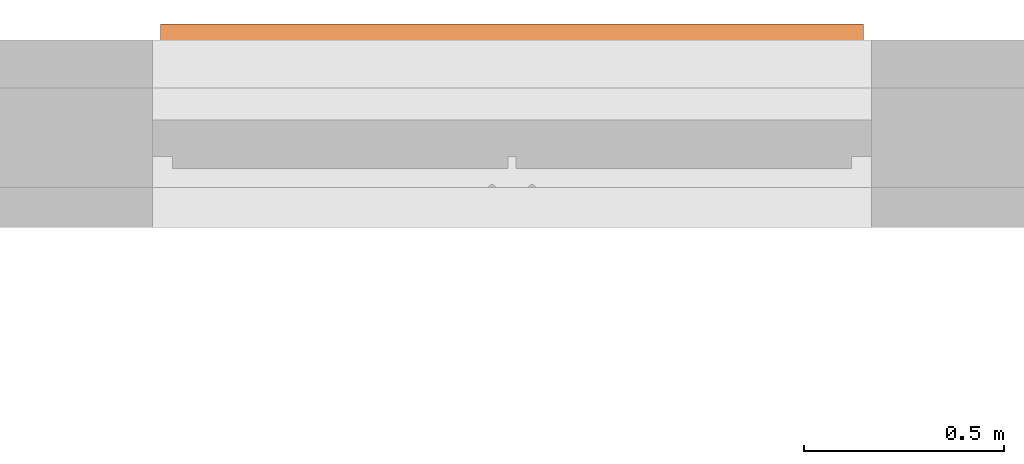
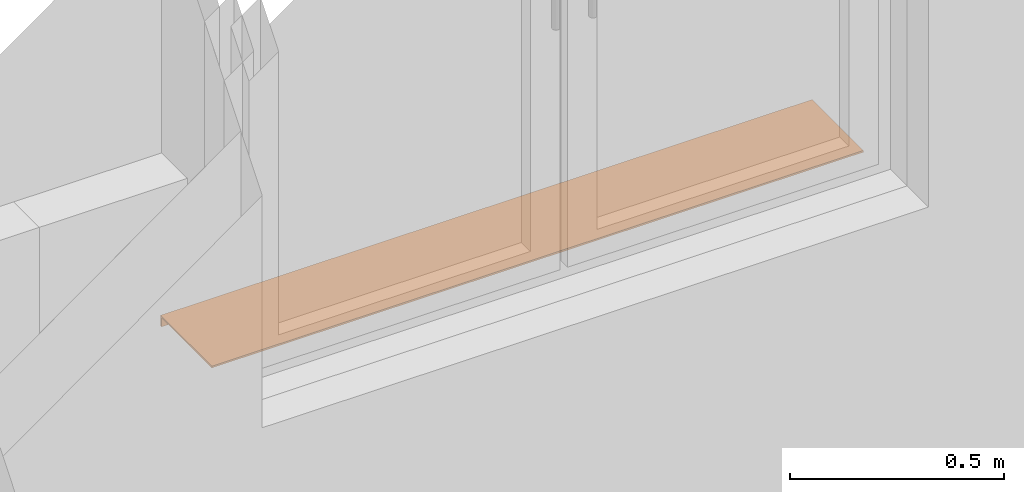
# One storey, part 7 of 7: 1 proxy.
"""IFC4 building model written with IfcOpenShell, lengths in metres."""

from ifc_helpers import new_model, entity, si_unit, converted_unit, derived_unit, frame, origin, origin_with_axes, place, context, subcontext, project, spatial, faceted_brep, source, transform, mapped, material, element, save


model = new_model("IFC4")

# Units and contexts
model_context = context("Model", 3, precision=1e-05, world=origin())
body_context = subcontext(model_context, "Body", "Model", "MODEL_VIEW")
ifc_project = project(units=[si_unit("LENGTHUNIT", "METRE"), si_unit("AREAUNIT", "SQUARE_METRE"), si_unit("VOLUMEUNIT", "CUBIC_METRE"), si_unit("MASSUNIT", "GRAM", prefix="KILO"), converted_unit("PLANEANGLEUNIT", "DEGREE", entity("IfcPlaneAngleMeasure", 0.0174532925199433), si_unit("PLANEANGLEUNIT", "RADIAN"), dimensions=[0, 0, 0, 0, 0, 0, 0]), derived_unit("THERMALTRANSMITTANCEUNIT", [(si_unit("POWERUNIT", "WATT"), 1), (si_unit("THERMODYNAMICTEMPERATUREUNIT", "KELVIN"), -1), (si_unit("LENGTHUNIT", "METRE"), -2)]), derived_unit("VOLUMETRICFLOWRATEUNIT", [(si_unit("LENGTHUNIT", "METRE"), 3), (converted_unit("TIMEUNIT", "hour", entity("IfcTimeMeasure", 3600.0), si_unit("TIMEUNIT", "SECOND"), dimensions=[0, 0, 1, 0, 0, 0, 0]), -1), (si_unit("LENGTHUNIT", "METRE"), -1)])], contexts=[model_context])

# Site, building, storey
site_placement = place(None, origin())
site = spatial("IfcSite", under=ifc_project, at=site_placement, Name="3. ASŘ", CompositionType="ELEMENT")
building_placement = place(site_placement, origin())
building = spatial("IfcBuilding", under=site, at=building_placement, Name="Pavilon B", CompositionType="ELEMENT")
storey_placement = place(building_placement, frame((0.0, 0.0, 3.6)))
storey = spatial("IfcBuildingStorey", under=building, at=storey_placement, Name="Půdorys 2.NP", CompositionType="ELEMENT", Elevation=3.6)

# Proxy
ifc_material = material(Name="HLINÍKOVÝ PLECH ELOXOVANÝ")
shared_shape = source(origin_with_axes(), body_context, "Body", "Brep", [
    faceted_brep([(0.02, 0.04, 0.025), (0.02, 0.24, 0.025), (0.02, 0.24, 0.03), (0.02, 0.04, 0.03), (1.74, 0.04, 0.025), (1.74, 0.04, 0.03), (1.74, 0.24, 0.03), (1.74, 0.24, 0.025), (0.0, 0.04, 0.025), (0.0, 0.005, 0.025), (1.76, 0.005, 0.025), (1.76, 0.04, 0.025), (1.76, 0.04, 0.03), (1.76, 0.0, 0.03), (0.0, 0.0, 0.03), (0.0, 0.04, 0.03), (0.0, 0.0, 0.0), (0.0, 0.005, 0.0), (1.76, 0.005, 0.0), (1.76, 0.0, 0.0)], [[[0, 1, 2, 3]], [[4, 5, 6, 7]], [[1, 0, 8, 9, 10, 11, 4, 7]], [[2, 1, 7, 6]], [[3, 2, 6, 5, 12, 13, 14, 15]], [[8, 15, 14, 16, 17, 9]], [[11, 10, 18, 19, 13, 12]], [[15, 8, 0, 3]], [[5, 4, 11, 12]], [[16, 14, 13, 19]], [[17, 16, 19, 18]], [[9, 17, 18, 10]]], orient=[[False], [False], [False], [False], [False], [False], [False], [False], [False], [False], [False], [False]]),
    faceted_brep([(0.0, 0.04, 0.025), (0.0, 0.24, 0.025), (0.0, 0.24, 0.03), (0.0, 0.04, 0.03), (0.02, 0.04, 0.025), (0.02, 0.04, 0.03), (0.02, 0.24, 0.03), (0.02, 0.24, 0.025)], [[[0, 1, 2, 3]], [[4, 5, 6, 7]], [[1, 0, 4, 7]], [[2, 1, 7, 6]], [[3, 2, 6, 5]], [[0, 3, 5, 4]]], orient=[[False], [False], [False], [False], [False], [False]]),
    faceted_brep([(1.74, 0.04, 0.025), (1.74, 0.24, 0.025), (1.74, 0.24, 0.03), (1.74, 0.04, 0.03), (1.76, 0.04, 0.025), (1.76, 0.04, 0.03), (1.76, 0.24, 0.03), (1.76, 0.24, 0.025)], [[[0, 1, 2, 3]], [[4, 5, 6, 7]], [[1, 0, 4, 7]], [[2, 1, 7, 6]], [[3, 2, 6, 5]], [[0, 3, 5, 4]]], orient=[[False], [False], [False], [False], [False], [False]]),
])
proxy_placement = place(storey_placement, frame((30.88, -15.19, 1.025), z_axis=(0.0, 0.0, 1.0), x_axis=(-1.0, 1.22464679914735e-16, 0.0)))
element("IfcBuildingElementProxy", 1, at=proxy_placement, inside=storey, material=ifc_material, Name="Parapet vnější", context=body_context, shape_type="MappedRepresentation", body=[
    mapped(shared_shape, transform((0.0, 0.0, 0.0), x_axis=(1.0, 0.0, 0.0), y_axis=(0.0, 1.0, 0.0), z_axis=(0.0, 0.0, 1.0), scale=1.0)),
])

save(model, "model.ifc")
